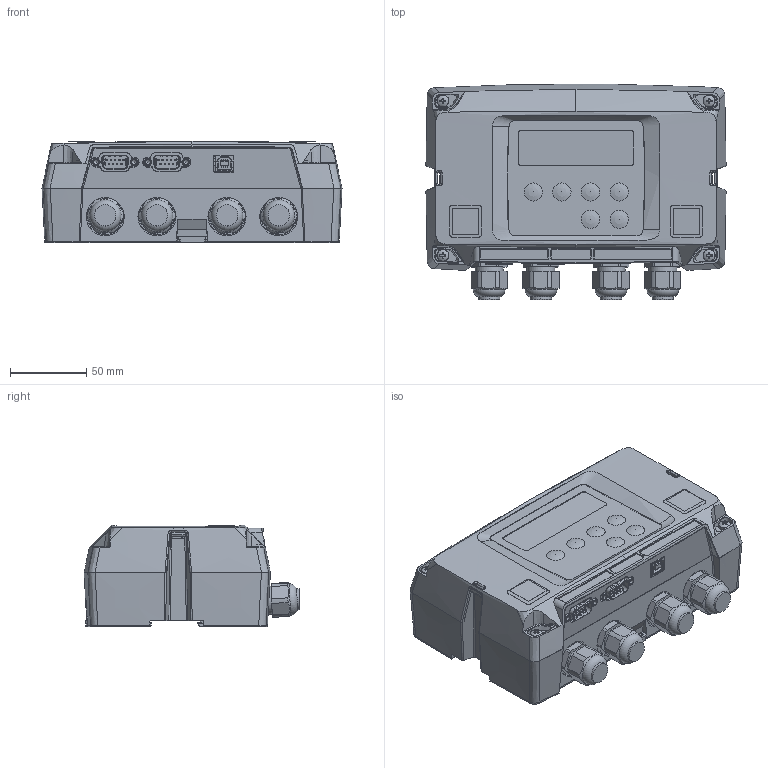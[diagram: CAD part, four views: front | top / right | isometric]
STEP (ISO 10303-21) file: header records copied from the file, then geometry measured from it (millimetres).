
FILE_DESCRIPTION(('STEP AP214'), '1');
FILE_NAME('ﾂﾊﾒ-59', '', ('UNSPECIFIED'), ('UNSPECIFIED'), 'C3D Converter', 'C3D Toolkit', '');
FILE_SCHEMA(('AUTOMOTIVE_DESIGN { 1 0 10303 214 3 1 1}'));
Length unit declared in the file: millimetre
Products named in the file (1): ТНРВ.400880.101
Bounding box: 197.04 x 141.5 x 66.7 mm (x, y, z)
Surface area: 137839.9 mm2 (no closed solid volume)
Topology: 0 solids, 76 shells, 1311 faces, 4737 edges, 3409 vertices
Faces by surface type: plane 663, cylinder 400, bspline 157, torus 33, sphere 31, cone 27
Full cylindrical faces by diameter (mm): 1 x18, 2.5 x3, 3.121 x5, 3.3 x4, 8 x4, 14 x4, 18.4 x4, 23.5 x4, 25 x4
Entity records: 95733 total; most frequent: CARTESIAN_POINT 46368, ORIENTED_EDGE 7376, DIRECTION 7008, EDGE_CURVE 4589, VERTEX_POINT 3392, LINE 2656, VECTOR 2656, AXIS2_PLACEMENT_3D 2176
